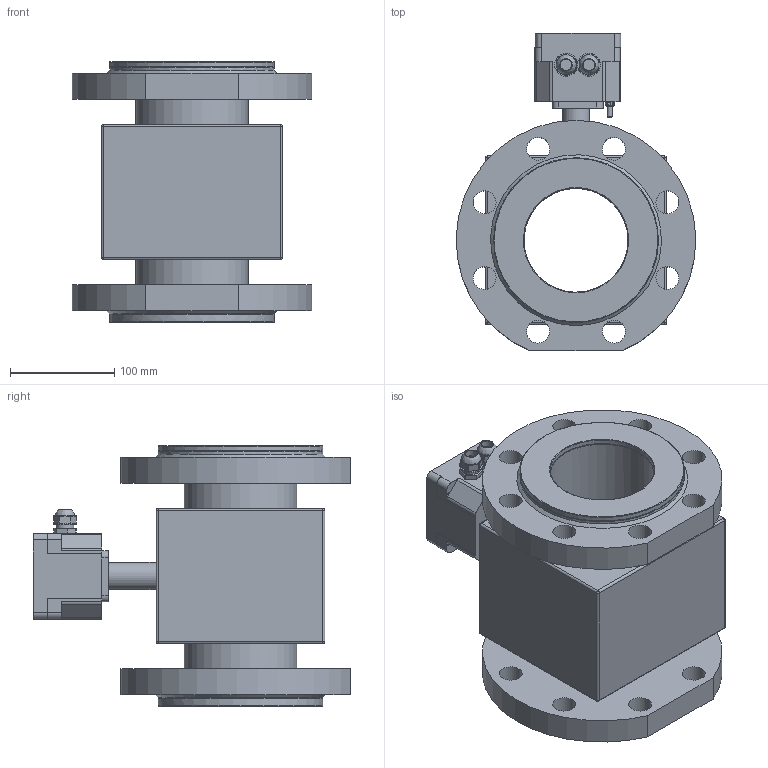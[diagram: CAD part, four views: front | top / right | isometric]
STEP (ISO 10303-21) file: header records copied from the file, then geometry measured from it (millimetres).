
FILE_DESCRIPTION(/* description */ (''),/* implementation_level */ '2;1');
FILE_NAME(/* name */ 'G:\ТЭК\01 Михайлычев\ПРЭМ\Модели для сайта\2,45 МПа\100F\ПРЭМ-100F.stp',/* time_stamp */ '2022-07-06T12:26:12+03:00',/* author */ ('d.mihailichev'),/* organization */ (''),/* preprocessor_version */ 'ST-DEVELOPER v18',/* originating_system */ 'Autodesk Inventor 2020',/* authorisation */ '');
FILE_SCHEMA (('AUTOMOTIVE_DESIGN { 1 0 10303 214 3 1 1 }'));
Products named in the file (1): ПРЭМ-100F
Bounding box: 229.91 x 305 x 250 mm (x, y, z)
Volume: 4619182.7 mm3; surface area: 556778.8 mm2
Topology: 4 solids, 14 shells, 2327 faces, 6128 edges, 3932 vertices
Faces by surface type: plane 1395, bspline 449, cylinder 358, sphere 68, cone 39, torus 18
Full cylindrical faces by diameter (mm): 0.431 x1, 0.546 x1, 1.159 x2, 1.5 x2, 1.7 x4, 1.8 x8, 2.5 x4, 3 x1, 3.242 x8, 4 x4, 4.5 x4, 4.7 x4, 5 x1, 5.472 x1, 5.5 x7, 7 x4, 7.5 x4, 8.5 x4, 11 x8, 12 x2, 13 x2, 15 x1, 17 x7, 19.094 x2, 20.5 x1, 21 x1, 21.2 x1, 22 x16, 25 x1, 25.1 x1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
Entity records: 79537 total; most frequent: CARTESIAN_POINT 22748, ORIENTED_EDGE 12042, DIRECTION 9761, EDGE_CURVE 6025, LINE 4029, VECTOR 4029, VERTEX_POINT 3911, AXIS2_PLACEMENT_3D 2866
